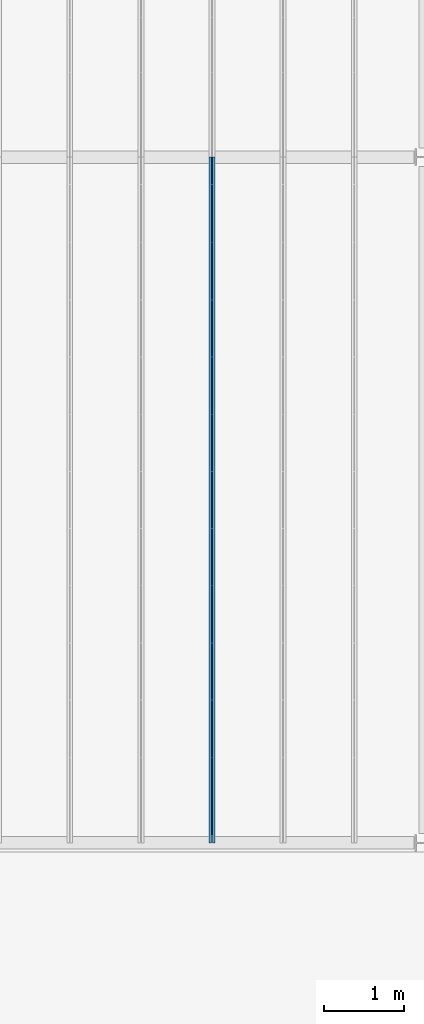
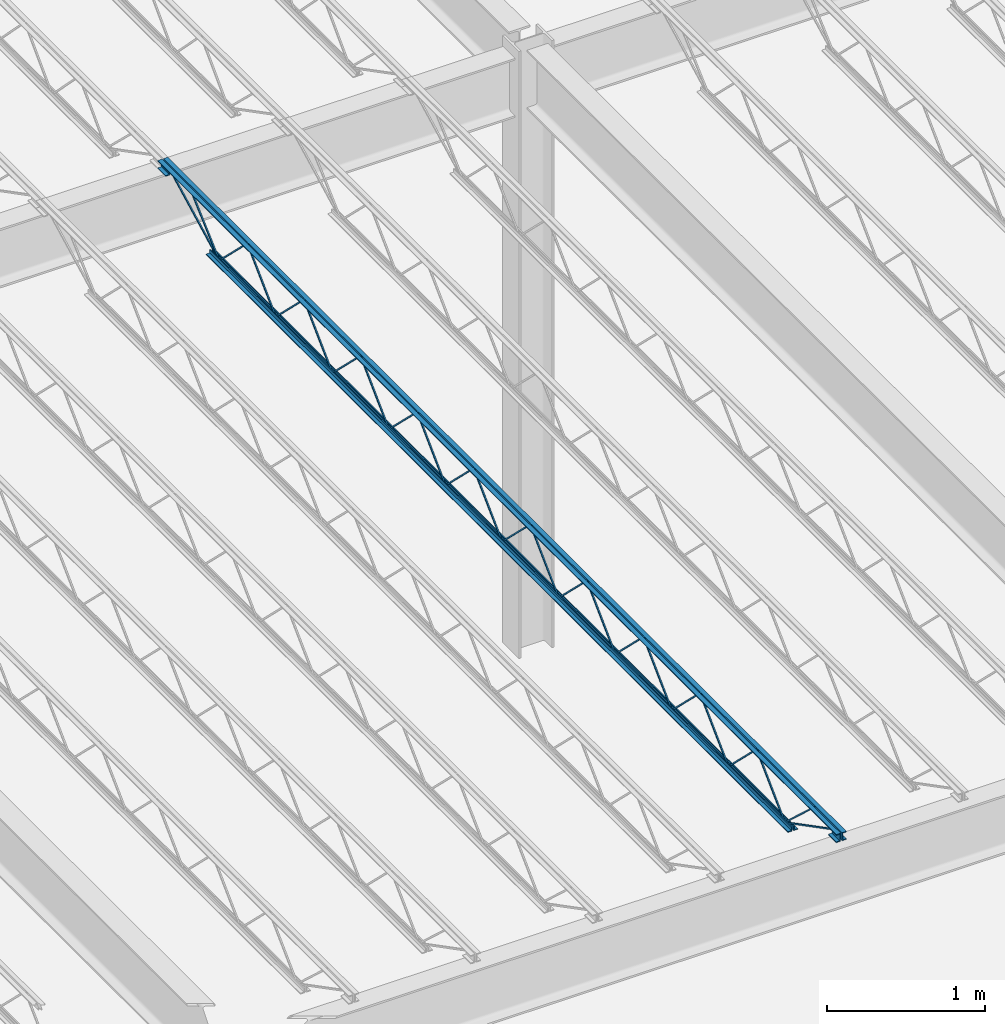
# One storey, part 37 of 119: 1 beam.
"""IFC2X3 building model written with IfcOpenShell, lengths in metres."""

import ifcopenshell
import ifcopenshell.guid

model = None  # the IFC model being written
_history = None  # IfcOwnerHistory: only IFC2X3 demands one
_inside = {}  # id of a spatial element -> (the spatial element, [elements in it])
_under = {}  # id of a project, library or spatial element -> (it, [spatial elements below it])
_declared = {}  # id of a project -> (the project, [libraries it declares])
_typed = {}  # id of a type object -> (the type object, [elements of that type])
_made_of = {}  # id of a material, layer set ... -> (it, [elements and type objects made of it])


def new_model(schema):
    """Start an empty IFC model of exactly this schema.

    Asked for "IFC4X3", IfcOpenShell would pick the latest addendum, in which some entities
    have other attributes; the version numbers below select the first issue.
    IFC2X3 requires an IfcOwnerHistory on every rooted entity: one is made here for all.
    """
    global model, _history
    if schema == "IFC4X3":
        model = ifcopenshell.file(schema_version=(4, 3, 0, 0))
    else:
        model = ifcopenshell.file(schema=schema)
    _inside.clear()
    _under.clear()
    _declared.clear()
    _typed.clear()
    _made_of.clear()
    _history = None
    if model.schema == "IFC2X3":
        org = make("IfcOrganization", Name="unknown")
        user = make(
            "IfcPersonAndOrganization",
            ThePerson=make("IfcPerson", FamilyName="unknown"),
            TheOrganization=org,
        )
        app = make(
            "IfcApplication",
            ApplicationDeveloper=org,
            Version="unknown",
            ApplicationFullName="unknown",
            ApplicationIdentifier="unknown",
        )
        _history = make(
            "IfcOwnerHistory",
            OwningUser=user,
            OwningApplication=app,
            ChangeAction="ADDED",
            CreationDate=0,
        )
    return model


def make(cls, **values):
    """One entity of the class cls with the attributes given. An attribute that is None is left unset."""
    return model.create_entity(
        cls, **{name: value for name, value in values.items() if value is not None}
    )


def entity(cls, *values):
    """Any entity or typed value of the class cls, its attributes in the order of the schema. None: left unset."""
    e = model.create_entity(cls)
    for i, value in enumerate(values):
        if value is not None:
            e[i] = value
    return e


def rooted(cls, **values):
    """An entity with a GlobalId (a new one), such as an element, a storey or a relation."""
    return make(cls, GlobalId=ifcopenshell.guid.new(), OwnerHistory=_history, **values)


def si_unit(unit_type, name, prefix=None):
    """IfcSIUnit, for example si_unit("LENGTHUNIT", "METRE", prefix="MILLI")."""
    return make("IfcSIUnit", UnitType=unit_type, Prefix=prefix, Name=name)


def converted_unit(unit_type, name, factor, base, dimensions=None, offset=None):
    """IfcConversionBasedUnit, such as the inch: factor (a typed value) times the base unit."""
    return make(
        "IfcConversionBasedUnit"
        if offset is None
        else "IfcConversionBasedUnitWithOffset",
        ConversionOffset=offset,
        Dimensions=None
        if dimensions is None
        else entity("IfcDimensionalExponents", *dimensions),
        UnitType=unit_type,
        Name=name,
        ConversionFactor=make(
            "IfcMeasureWithUnit", ValueComponent=factor, UnitComponent=base
        ),
    )


def assignment(units):
    """IfcUnitAssignment: the units of a project."""
    return None if units is None else make("IfcUnitAssignment", Units=units)


def point(xyz):
    """IfcCartesianPoint."""
    return None if xyz is None else make("IfcCartesianPoint", Coordinates=xyz)


def direction(xyz):
    """IfcDirection."""
    return None if xyz is None else make("IfcDirection", DirectionRatios=xyz)


def frame(location, z_axis=None, x_axis=None):
    """IfcAxis2Placement3D, a coordinate frame: its origin and axes. An axis left out is left unset."""
    return make(
        "IfcAxis2Placement3D",
        Location=point(location),
        Axis=direction(z_axis),
        RefDirection=direction(x_axis),
    )


def origin():
    """The frame at (0, 0, 0) with its axes left unset."""
    return frame((0.0, 0.0, 0.0))


def place(relative_to, where):
    """IfcLocalPlacement: puts the frame where relative to a parent placement (None: the world)."""
    return make(
        "IfcLocalPlacement", PlacementRelTo=relative_to, RelativePlacement=where
    )


def context(
    kind, dimensions, precision=None, world=None, true_north=None, identifier=None
):
    """IfcGeometricRepresentationContext, for example the 3D "Model" context."""
    return make(
        "IfcGeometricRepresentationContext",
        ContextIdentifier=identifier,
        ContextType=kind,
        CoordinateSpaceDimension=dimensions,
        Precision=precision,
        WorldCoordinateSystem=world,
        TrueNorth=true_north,
    )


def project(units=None, contexts=None):
    """IfcProject with its units and contexts."""
    return rooted(
        "IfcProject",
        Name="project",
        RepresentationContexts=contexts,
        UnitsInContext=assignment(units),
    )


def spatial(cls, under=None, at=None, **own):
    """A site, building, storey or space (cls), placed at a placement, below another one or the project."""
    s = rooted(cls, ObjectPlacement=at, **own)
    if under is not None:
        _under.setdefault(under.id(), (under, []))[1].append(s)
    return s


def faces_of(points, faces, orient=None, outer=None):
    """IfcFace entities. A face is a list of loops; a loop is a list of indices into points, from 0.

    orient and outer hold one flag for each loop. By default every Orientation is true, the
    first loop of a face is its IfcFaceOuterBound and the others are IfcFaceBound.
    """
    made = []
    for i, loops in enumerate(faces):
        bounds = []
        for j, loop in enumerate(loops):
            is_outer = j == 0 if outer is None else outer[i][j]
            bounds.append(
                make(
                    "IfcFaceOuterBound" if is_outer else "IfcFaceBound",
                    Bound=make("IfcPolyLoop", Polygon=[points[k] for k in loop]),
                    Orientation=True if orient is None else orient[i][j],
                )
            )
        made.append(make("IfcFace", Bounds=bounds))
    return made


def face_set(faces, orient=None, outer=None):
    """The faces of one IfcConnectedFaceSet. surface_model builds it on its shared points."""
    return ("IfcConnectedFaceSet", faces, orient, outer)


def surface_model(cls, points, shells):
    """IfcFaceBasedSurfaceModel or IfcShellBasedSurfaceModel (cls): surfaces that need not close."""
    shared = [point(p) for p in points]
    made = [make(c, CfsFaces=faces_of(shared, fs, o, b)) for c, fs, o, b in shells]
    if cls == "IfcFaceBasedSurfaceModel":
        return make(cls, FbsmFaces=made)
    return make(cls, SbsmBoundary=made)


def shape(context_of_items, identifier, shape_type, items):
    """IfcShapeRepresentation: the items that make up one representation, for example the "Body"."""
    return make(
        "IfcShapeRepresentation",
        ContextOfItems=context_of_items,
        RepresentationIdentifier=identifier,
        RepresentationType=shape_type,
        Items=items,
    )


def made_of(thing, what):
    """Note that an element or type object is made of a material, layer set ...; save() writes the relation."""
    if what is not None:
        _made_of.setdefault(what.id(), (what, []))[1].append(thing)
    return thing


def element(
    cls,
    number,
    at=None,
    inside=None,
    cuts=None,
    type_object=None,
    material=None,
    context=None,
    identifier="Body",
    shape_type=None,
    held_by="IfcProductDefinitionShape",
    body=None,
    shapes=None,
    **own,
):
    """One element of the class cls, such as IfcWall. Its Tag is "e" and its number.

    at: its placement. inside: the storey or other place that contains it. cuts: it is an
    opening in that element (IfcRelVoidsElement). A single representation is given by context,
    identifier, shape_type and body (its items); several are given by shapes. held_by: the class
    of the entity that holds the representations. save() writes the other relations.
    """
    e = rooted(cls, Tag="e%d" % number, ObjectPlacement=at, **own)
    if body is not None:
        shapes = [shape(context, identifier, shape_type, body)]
    if shapes is not None:
        e.Representation = make(held_by, Representations=shapes)
    if inside is not None:
        _inside.setdefault(inside.id(), (inside, []))[1].append(e)
    if cuts is not None:
        rooted(
            "IfcRelVoidsElement", RelatingBuildingElement=cuts, RelatedOpeningElement=e
        )
    if type_object is not None:
        _typed.setdefault(type_object.id(), (type_object, []))[1].append(e)
    return made_of(e, material)


def aggregate(whole, parts):
    """IfcRelAggregates: a whole, such as a stair, and the parts it consists of."""
    return rooted("IfcRelAggregates", RelatingObject=whole, RelatedObjects=parts)


def save(model, path):
    """Write the relations noted so far, then the file.

    IfcRelAggregates (storeys below a building ...), IfcRelContainedInSpatialStructure (elements
    in a storey), IfcRelDefinesByType, IfcRelAssociatesMaterial and IfcRelDeclares: one each for
    every whole, place, type object, material and project.
    """
    for whole, parts in _under.values():
        aggregate(whole, parts)
    for where, things in _inside.values():
        rooted(
            "IfcRelContainedInSpatialStructure",
            RelatedElements=things,
            RelatingStructure=where,
        )
    for kind, things in _typed.values():
        rooted("IfcRelDefinesByType", RelatedObjects=things, RelatingType=kind)
    for what, things in _made_of.values():
        rooted("IfcRelAssociatesMaterial", RelatedObjects=things, RelatingMaterial=what)
    for by, libraries in _declared.values():
        rooted("IfcRelDeclares", RelatingContext=by, RelatedDefinitions=libraries)
    model.write(path)


model = new_model("IFC2X3")

# Units and contexts
model_context = context("Model", 3, precision=1e-09, world=origin())
plan_context = context("Plan", 3, precision=1e-09, world=origin())
ifc_project = project(units=[si_unit("LENGTHUNIT", "METRE"), si_unit("AREAUNIT", "SQUARE_METRE"), si_unit("VOLUMEUNIT", "CUBIC_METRE"), converted_unit("PLANEANGLEUNIT", "DEGREE", entity("IfcRatioMeasure", 0.01745329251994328), si_unit("PLANEANGLEUNIT", "RADIAN"), dimensions=[0, 0, 0, 0, 0, 0, 0]), si_unit("TIMEUNIT", "SECOND")], contexts=[model_context, plan_context])

# Site, building, storey
site_placement = place(None, origin())
site = spatial("IfcSite", under=ifc_project, at=site_placement, Name="Default", CompositionType="ELEMENT")
building_placement = place(site_placement, origin())
building = spatial("IfcBuilding", under=site, at=building_placement, CompositionType="ELEMENT")
storey_placement = place(building_placement, frame((0.0, 0.0, 4.570000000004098)))
storey = spatial("IfcBuildingStorey", under=building, at=storey_placement, Name="Second Floor", CompositionType="ELEMENT", Elevation=4.570000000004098)

# Beam
beam_placement = place(storey_placement, frame((-29.14300000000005, 10.04000000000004, 4.323999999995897), z_axis=(0.0, 0.0, 1.0), x_axis=(-1.0, 0.0, 0.0)))
element("IfcBeam", 1, at=beam_placement, inside=storey, Name="M_K-Series Bar Joist-Rod Web:14K1:14K1", ObjectType="M_K-Series Bar Joist-Rod Web:14K1", context=model_context, shape_type="SurfaceModel", body=[
    surface_model("IfcFaceBasedSurfaceModel", [(-0.03200000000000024, -2.141200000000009, 0.01110000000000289), (-0.04149999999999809, -2.141200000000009, 0.01110000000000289), (-0.04149999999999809, -2.141200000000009, 0.001600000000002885), (-0.03200000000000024, -2.141200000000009, 0.001600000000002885), (-0.04149999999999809, -2.139961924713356, 0.01110000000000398), (-0.03200000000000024, -2.139961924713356, 0.01110000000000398), (-0.04149999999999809, -2.136088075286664, 0.001600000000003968), (-0.04149999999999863, -1.785138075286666, 0.3449000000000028), (-0.04149999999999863, -1.782661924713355, 0.3449000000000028), (-0.04149999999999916, -1.431711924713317, 0.001600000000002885), (-0.04149999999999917, -1.426600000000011, 0.001600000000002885), (-0.04149999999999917, -1.426600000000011, 0.01110000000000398), (-0.04149999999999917, -1.42783807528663, 0.01110000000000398), (-0.04149999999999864, -1.778788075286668, 0.3544000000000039), (-0.04149999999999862, -1.789011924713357, 0.3544000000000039), (-0.03199999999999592, -2.136088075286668, 0.001600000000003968), (-0.03200000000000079, -1.78513807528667, 0.3449000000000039), (-0.03200000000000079, -1.782661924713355, 0.3449000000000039), (-0.03200000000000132, -1.431711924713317, 0.001600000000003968), (-0.03200000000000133, -1.426600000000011, 0.001600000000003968), (-0.03200000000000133, -1.426600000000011, 0.01110000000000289), (-0.03200000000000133, -1.42783807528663, 0.01110000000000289), (-0.03200000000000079, -1.778788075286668, 0.3544000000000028), (-0.03200000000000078, -1.789011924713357, 0.3544000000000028), (-0.03199999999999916, -2.855800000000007, 0.01110000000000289), (-0.04149999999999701, -2.855800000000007, 0.01110000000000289), (-0.04149999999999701, -2.855800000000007, 0.001600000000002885), (-0.03199999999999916, -2.855800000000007, 0.001600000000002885), (-0.04149999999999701, -2.854561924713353, 0.01110000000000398), (-0.03199999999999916, -2.854561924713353, 0.01110000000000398), (-0.04149999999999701, -2.850688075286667, 0.001600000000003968), (-0.04149999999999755, -2.499738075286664, 0.3449000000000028), (-0.04149999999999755, -2.497261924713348, 0.3449000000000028), (-0.04149999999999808, -2.146311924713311, 0.001600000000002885), (-0.04149999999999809, -2.141200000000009, 0.01110000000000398), (-0.04149999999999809, -2.142438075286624, 0.01110000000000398), (-0.04149999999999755, -2.493388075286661, 0.3544000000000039), (-0.04149999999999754, -2.503611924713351, 0.3544000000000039), (-0.03199999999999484, -2.850688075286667, 0.001600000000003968), (-0.0319999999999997, -2.499738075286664, 0.3449000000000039), (-0.0319999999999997, -2.497261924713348, 0.3449000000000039), (-0.03200000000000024, -2.146311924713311, 0.001600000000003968), (-0.03200000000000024, -2.141200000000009, 0.001600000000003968), (-0.03200000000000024, -2.142438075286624, 0.01110000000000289), (-0.03199999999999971, -2.493388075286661, 0.3544000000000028), (-0.0319999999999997, -2.503611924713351, 0.3544000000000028), (-0.03200000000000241, -3.570400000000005, 0.01110000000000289), (-0.04150000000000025, -3.570400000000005, 0.01110000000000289), (-0.04150000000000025, -3.570400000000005, 0.001600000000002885), (-0.03200000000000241, -3.570400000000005, 0.001600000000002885), (-0.04150000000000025, -3.569161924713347, 0.01110000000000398), (-0.03200000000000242, -3.569161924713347, 0.01110000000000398), (-0.04150000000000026, -3.56528807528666, 0.001600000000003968), (-0.04150000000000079, -3.214338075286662, 0.3449000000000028), (-0.04150000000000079, -3.21186192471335, 0.3449000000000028), (-0.04150000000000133, -2.860911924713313, 0.001600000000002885), (-0.04149999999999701, -2.855800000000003, 0.001600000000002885), (-0.04150000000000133, -2.855800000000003, 0.01110000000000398), (-0.04150000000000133, -2.857038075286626, 0.01110000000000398), (-0.0415000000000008, -3.207988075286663, 0.3544000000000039), (-0.04150000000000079, -3.218211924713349, 0.3544000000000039), (-0.03199999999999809, -3.56528807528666, 0.001600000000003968), (-0.03200000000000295, -3.214338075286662, 0.3449000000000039), (-0.03200000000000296, -3.21186192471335, 0.3449000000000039), (-0.03200000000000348, -2.860911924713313, 0.001600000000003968), (-0.03200000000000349, -2.855800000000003, 0.001600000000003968), (-0.03199999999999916, -2.855800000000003, 0.01110000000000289), (-0.03200000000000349, -2.857038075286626, 0.01110000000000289), (-0.03200000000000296, -3.207988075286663, 0.3544000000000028), (-0.03200000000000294, -3.218211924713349, 0.3544000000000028), (-0.03200000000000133, -4.285000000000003, 0.01110000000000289), (-0.04149999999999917, -4.285000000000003, 0.01110000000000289), (-0.04149999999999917, -4.285000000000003, 0.001600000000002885), (-0.03200000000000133, -4.285000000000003, 0.001600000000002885), (-0.04149999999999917, -4.283761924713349, 0.01110000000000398), (-0.03200000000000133, -4.283761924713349, 0.01110000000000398), (-0.04149999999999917, -4.279888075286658, 0.001600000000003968), (-0.0414999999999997, -3.92893807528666, 0.3449000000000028), (-0.04149999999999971, -3.926461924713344, 0.3449000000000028), (-0.04150000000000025, -3.575511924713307, 0.001600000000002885), (-0.04150000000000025, -3.570400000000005, 0.01110000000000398), (-0.04150000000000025, -3.571638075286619, 0.01110000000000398), (-0.04149999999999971, -3.922588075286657, 0.3544000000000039), (-0.0414999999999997, -3.932811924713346, 0.3544000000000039), (-0.031999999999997, -4.279888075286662, 0.001600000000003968), (-0.03200000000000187, -3.92893807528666, 0.3449000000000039), (-0.03200000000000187, -3.926461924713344, 0.3449000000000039), (-0.0320000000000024, -3.575511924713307, 0.001600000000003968), (-0.03200000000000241, -3.570400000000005, 0.001600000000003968), (-0.03200000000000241, -3.571638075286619, 0.01110000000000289), (-0.03200000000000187, -3.922588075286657, 0.3544000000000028), (-0.03200000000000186, -3.932811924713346, 0.3544000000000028), (-0.03200000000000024, -4.9996, 0.01110000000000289), (-0.04149999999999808, -4.9996, 0.01110000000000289), (-0.04149999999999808, -4.9996, 0.001600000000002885), (-0.03200000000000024, -4.9996, 0.001600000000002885), (-0.04149999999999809, -4.998361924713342, 0.01110000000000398), (-0.03200000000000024, -4.998361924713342, 0.01110000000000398), (-0.04149999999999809, -4.994488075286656, 0.001600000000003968), (-0.04149999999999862, -4.643538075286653, 0.3449000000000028), (-0.04149999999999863, -4.641061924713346, 0.3449000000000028), (-0.04149999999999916, -4.290111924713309, 0.001600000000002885), (-0.04149999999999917, -4.284999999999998, 0.001600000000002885), (-0.04149999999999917, -4.284999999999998, 0.01110000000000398), (-0.04149999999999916, -4.286238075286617, 0.01110000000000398), (-0.04149999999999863, -4.637188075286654, 0.3544000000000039), (-0.04149999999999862, -4.64741192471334, 0.3544000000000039), (-0.03199999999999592, -4.994488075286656, 0.001600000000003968), (-0.03200000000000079, -4.643538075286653, 0.3449000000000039), (-0.03200000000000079, -4.641061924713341, 0.3449000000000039), (-0.03200000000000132, -4.290111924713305, 0.001600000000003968), (-0.03200000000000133, -4.284999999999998, 0.001600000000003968), (-0.03200000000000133, -4.284999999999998, 0.01110000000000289), (-0.03200000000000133, -4.286238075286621, 0.01110000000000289), (-0.03200000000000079, -4.637188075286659, 0.3544000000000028), (-0.03200000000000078, -4.64741192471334, 0.3544000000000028), (-0.03200000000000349, -5.714199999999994, 0.01110000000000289), (-0.04150000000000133, -5.714199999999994, 0.01110000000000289), (-0.04150000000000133, -5.714199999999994, 0.001600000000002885), (-0.03200000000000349, -5.714199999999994, 0.001600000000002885), (-0.04150000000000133, -5.712961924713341, 0.01110000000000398), (-0.03200000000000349, -5.712961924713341, 0.01110000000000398), (-0.04149999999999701, -5.709088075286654, 0.001600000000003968), (-0.04149999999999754, -5.358138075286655, 0.3449000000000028), (-0.04149999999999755, -5.355661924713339, 0.3449000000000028), (-0.04149999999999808, -5.004711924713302, 0.001600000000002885), (-0.04150000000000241, -4.999599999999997, 0.01110000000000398), (-0.04150000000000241, -5.000838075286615, 0.01110000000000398), (-0.04150000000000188, -5.351788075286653, 0.3544000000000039), (-0.04150000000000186, -5.362011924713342, 0.3544000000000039), (-0.03199999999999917, -5.709088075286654, 0.001600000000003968), (-0.03200000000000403, -5.358138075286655, 0.3449000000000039), (-0.03200000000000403, -5.355661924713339, 0.3449000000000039), (-0.03200000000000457, -5.004711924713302, 0.001600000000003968), (-0.03200000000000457, -4.999599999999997, 0.001600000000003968), (-0.03200000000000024, -5.000838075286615, 0.01110000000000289), (-0.03199999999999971, -5.351788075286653, 0.3544000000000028), (-0.0319999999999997, -5.362011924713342, 0.3544000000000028), (-0.03200000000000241, -6.428799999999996, 0.01110000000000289), (-0.04150000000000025, -6.428799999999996, 0.01110000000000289), (-0.04150000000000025, -6.428799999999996, 0.001600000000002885), (-0.03200000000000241, -6.428799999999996, 0.001600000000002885), (-0.04150000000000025, -6.427561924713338, 0.01110000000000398), (-0.03200000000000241, -6.427561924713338, 0.01110000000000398), (-0.04150000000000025, -6.423688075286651, 0.001600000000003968), (-0.04150000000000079, -6.072738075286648, 0.3449000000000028), (-0.04150000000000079, -6.070261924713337, 0.3449000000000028), (-0.04150000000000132, -5.719311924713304, 0.001600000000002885), (-0.04150000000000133, -5.714199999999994, 0.01110000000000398), (-0.04150000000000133, -5.715438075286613, 0.01110000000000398), (-0.04150000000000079, -6.06638807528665, 0.3544000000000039), (-0.04150000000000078, -6.076611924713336, 0.3544000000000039), (-0.03199999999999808, -6.423688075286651, 0.001600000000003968), (-0.03200000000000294, -6.072738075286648, 0.3449000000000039), (-0.03200000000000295, -6.070261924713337, 0.3449000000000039), (-0.03200000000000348, -5.7193119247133, 0.001600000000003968), (-0.03200000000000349, -5.714199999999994, 0.001600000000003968), (-0.03200000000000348, -5.715438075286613, 0.01110000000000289), (-0.03200000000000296, -6.06638807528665, 0.3544000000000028), (-0.03200000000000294, -6.076611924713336, 0.3544000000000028), (-0.03200000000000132, -7.14339999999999, 0.01110000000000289), (-0.04149999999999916, -7.14339999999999, 0.01110000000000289), (-0.04149999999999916, -7.14339999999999, 0.001600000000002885), (-0.03200000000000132, -7.14339999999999, 0.001600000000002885), (-0.04149999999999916, -7.142161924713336, 0.01110000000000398), (-0.03200000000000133, -7.142161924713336, 0.01110000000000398), (-0.04149999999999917, -7.138288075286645, 0.001600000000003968), (-0.0414999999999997, -6.787338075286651, 0.3449000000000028), (-0.0414999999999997, -6.784861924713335, 0.3449000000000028), (-0.04150000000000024, -6.433911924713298, 0.001600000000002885), (-0.04150000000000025, -6.428799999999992, 0.001600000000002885), (-0.04150000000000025, -6.428799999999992, 0.01110000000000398), (-0.04150000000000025, -6.43003807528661, 0.01110000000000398), (-0.04149999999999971, -6.780988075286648, 0.3544000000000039), (-0.0414999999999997, -6.791211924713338, 0.3544000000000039), (-0.031999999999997, -7.138288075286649, 0.001600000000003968), (-0.03200000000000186, -6.787338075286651, 0.3449000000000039), (-0.03200000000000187, -6.784861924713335, 0.3449000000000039), (-0.0320000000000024, -6.433911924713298, 0.001600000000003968), (-0.03200000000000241, -6.428799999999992, 0.001600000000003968), (-0.03200000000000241, -6.428799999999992, 0.01110000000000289), (-0.0320000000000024, -6.43003807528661, 0.01110000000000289), (-0.03200000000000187, -6.780988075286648, 0.3544000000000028), (-0.03200000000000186, -6.791211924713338, 0.3544000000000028), (-0.03200000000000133, -1.426600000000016, 0.01109999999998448), (-0.04149999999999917, -1.426600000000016, 0.01109999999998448), (-0.04149999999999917, -1.426600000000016, 0.001599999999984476), (-0.03200000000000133, -1.426600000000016, 0.001599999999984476), (-0.04149999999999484, -1.425361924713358, 0.01109999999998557), (-0.031999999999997, -1.425361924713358, 0.01109999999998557), (-0.04149999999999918, -1.421488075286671, 0.001599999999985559), (-0.04149999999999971, -1.070538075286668, 0.3448999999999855), (-0.04149999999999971, -1.068061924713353, 0.3448999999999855), (-0.04150000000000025, -0.7171119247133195, 0.001599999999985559), (-0.04150000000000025, -0.7120000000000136, 0.001599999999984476), (-0.04150000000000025, -0.7120000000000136, 0.01109999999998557), (-0.04150000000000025, -0.7132380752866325, 0.01109999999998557), (-0.04149999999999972, -1.06418807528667, 0.3543999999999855), (-0.0414999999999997, -1.074411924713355, 0.3543999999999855), (-0.031999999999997, -1.421488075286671, 0.001599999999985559), (-0.03199999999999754, -1.070538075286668, 0.3448999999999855), (-0.03199999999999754, -1.068061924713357, 0.3448999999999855), (-0.03199999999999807, -0.7171119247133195, 0.001599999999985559), (-0.03199999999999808, -0.7120000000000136, 0.001599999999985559), (-0.03200000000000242, -0.7120000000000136, 0.01109999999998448), (-0.03199999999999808, -0.7132380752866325, 0.01109999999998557), (-0.03199999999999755, -1.064188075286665, 0.3543999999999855), (-0.03199999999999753, -1.074411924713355, 0.3543999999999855), (-0.03200000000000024, -7.857999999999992, 0.01110000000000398), (-0.04149999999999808, -7.857999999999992, 0.01110000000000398), (-0.04149999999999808, -7.857999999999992, 0.001600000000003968), (-0.03200000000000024, -7.857999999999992, 0.001600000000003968), (-0.04149999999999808, -7.856761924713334, 0.01110000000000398), (-0.03200000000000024, -7.856761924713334, 0.01110000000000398), (-0.04149999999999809, -7.852888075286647, 0.001600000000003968), (-0.04149999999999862, -7.501938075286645, 0.3449000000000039), (-0.04149999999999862, -7.499461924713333, 0.3449000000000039), (-0.04149999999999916, -7.148511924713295, 0.001600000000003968), (-0.04149999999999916, -7.14339999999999, 0.001600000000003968), (-0.04149999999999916, -7.14339999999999, 0.01110000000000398), (-0.04149999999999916, -7.144638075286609, 0.01110000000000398), (-0.04149999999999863, -7.495588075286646, 0.3544000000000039), (-0.04149999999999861, -7.505811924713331, 0.3544000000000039), (-0.03199999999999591, -7.852888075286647, 0.001600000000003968), (-0.03200000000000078, -7.501938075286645, 0.3449000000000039), (-0.03200000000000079, -7.499461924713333, 0.3449000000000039), (-0.03200000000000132, -7.148511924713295, 0.001600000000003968), (-0.03200000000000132, -7.14339999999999, 0.001600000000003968), (-0.03200000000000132, -7.14339999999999, 0.01110000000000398), (-0.03200000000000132, -7.144638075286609, 0.01110000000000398), (-0.03200000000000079, -7.495588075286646, 0.3544000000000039), (-0.03200000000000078, -7.505811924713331, 0.3544000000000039), (-0.04150000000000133, 0.0, 0.3559999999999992), (-0.07350000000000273, 0.0, 0.3559999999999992), (-0.07350000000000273, 0.0, 0.3494999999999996), (-0.04799999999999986, 0.0, 0.3494999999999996), (-0.04799999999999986, 0.0, 0.3239999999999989), (-0.04150000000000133, 0.0, 0.3239999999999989), (-0.03200000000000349, 0.0, 0.3559999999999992), (-0.03200000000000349, 0.0, 0.3239999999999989), (-0.02550000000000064, 0.0, 0.3239999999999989), (-0.02550000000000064, 0.0, 0.3494999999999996), (0.0, 0.0, 0.3494999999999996), (0.0, 0.0, 0.3559999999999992), (-0.04149999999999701, -8.569999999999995, 0.3559999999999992), (-0.07349999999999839, -8.569999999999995, 0.3559999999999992), (-0.07349999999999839, -8.569999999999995, 0.3494999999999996), (-0.04799999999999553, -8.569999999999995, 0.3494999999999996), (-0.04799999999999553, -8.569999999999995, 0.3239999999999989), (-0.04149999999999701, -8.569999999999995, 0.3239999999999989), (-0.03199999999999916, -8.569999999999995, 0.3559999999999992), (-0.03199999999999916, -8.569999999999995, 0.3239999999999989), (-0.02549999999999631, -8.569999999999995, 0.3239999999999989), (-0.02549999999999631, -8.569999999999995, 0.3494999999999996), (0.0, -8.569999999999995, 0.3494999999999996), (0.0, -8.569999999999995, 0.3559999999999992), (-0.03199999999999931, -8.470000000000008, 0.2924999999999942), (0.0, -8.470000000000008, 0.2924999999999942), (0.0, -8.470000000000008, 0.2989999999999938), (-0.02550000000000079, -8.470000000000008, 0.2989999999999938), (-0.02550000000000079, -8.470000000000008, 0.3239999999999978), (-0.03199999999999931, -8.470000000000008, 0.3239999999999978), (-0.07349999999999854, -8.470000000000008, 0.2924999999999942), (-0.04149999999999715, -8.470000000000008, 0.2924999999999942), (-0.04149999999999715, -8.470000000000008, 0.3239999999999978), (-0.048, -8.470000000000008, 0.3239999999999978), (-0.048, -8.470000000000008, 0.2989999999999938), (-0.07349999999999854, -8.470000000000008, 0.2989999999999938), (-0.03199999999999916, -8.569999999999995, 0.2924999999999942), (0.0, -8.569999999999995, 0.2924999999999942), (0.0, -8.569999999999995, 0.2989999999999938), (-0.02550000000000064, -8.569999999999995, 0.2989999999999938), (-0.02550000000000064, -8.569999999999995, 0.3239999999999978), (-0.03199999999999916, -8.569999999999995, 0.3239999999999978), (-0.07349999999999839, -8.569999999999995, 0.2924999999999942), (-0.04149999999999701, -8.569999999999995, 0.2924999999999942), (-0.04149999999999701, -8.569999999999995, 0.3239999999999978), (-0.04799999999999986, -8.569999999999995, 0.3239999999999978), (-0.04799999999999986, -8.569999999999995, 0.2989999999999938), (-0.07349999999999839, -8.569999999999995, 0.2989999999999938), (-0.04150000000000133, 0.0, 0.2924999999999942), (-0.04150000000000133, 0.0, 0.3239999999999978), (-0.04800000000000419, 0.0, 0.3239999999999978), (-0.04800000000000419, 0.0, 0.2989999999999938), (-0.07350000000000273, 0.0, 0.2989999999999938), (-0.07350000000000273, 0.0, 0.2924999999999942), (-0.03200000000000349, 0.0, 0.2924999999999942), (0.0, 0.0, 0.2924999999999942), (0.0, 0.0, 0.2989999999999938), (-0.02550000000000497, 0.0, 0.2989999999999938), (-0.02550000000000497, 0.0, 0.3239999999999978), (-0.03200000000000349, 0.0, 0.3239999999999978), (-0.04150000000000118, -0.0999999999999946, 0.2924999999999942), (-0.04150000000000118, -0.0999999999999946, 0.3239999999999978), (-0.04800000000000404, -0.0999999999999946, 0.3239999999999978), (-0.04800000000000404, -0.0999999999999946, 0.2989999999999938), (-0.07350000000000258, -0.0999999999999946, 0.2989999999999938), (-0.07350000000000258, -0.0999999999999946, 0.2924999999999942), (-0.03200000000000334, -0.0999999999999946, 0.2924999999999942), (0.0, -0.0999999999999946, 0.2924999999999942), (0.0, -0.0999999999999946, 0.2989999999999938), (-0.02550000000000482, -0.0999999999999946, 0.2989999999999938), (-0.02550000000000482, -0.0999999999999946, 0.3239999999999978), (-0.03200000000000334, -0.0999999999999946, 0.3239999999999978), (-0.04150000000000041, -0.6119999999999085, 0.0), (-0.04150000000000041, -0.6119999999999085, 0.03199999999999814), (-0.04799999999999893, -0.6119999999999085, 0.03199999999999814), (-0.04799999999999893, -0.6119999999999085, 0.006499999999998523), (-0.0735000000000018, -0.6119999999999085, 0.006499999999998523), (-0.0735000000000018, -0.6119999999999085, 0.0), (-0.03200000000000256, -0.6119999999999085, 0.0), (0.0, -0.6119999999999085, 0.0), (0.0, -0.6119999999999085, 0.006499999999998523), (-0.02549999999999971, -0.6119999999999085, 0.006499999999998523), (-0.02549999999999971, -0.6119999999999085, 0.03199999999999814), (-0.03200000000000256, -0.6119999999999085, 0.03199999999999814), (-0.04149999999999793, -7.957999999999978, 0.0), (-0.04149999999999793, -7.957999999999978, 0.03199999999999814), (-0.04799999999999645, -7.957999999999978, 0.03199999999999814), (-0.04799999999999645, -7.957999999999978, 0.006499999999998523), (-0.07349999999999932, -7.957999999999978, 0.006499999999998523), (-0.07349999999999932, -7.957999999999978, 0.0), (-0.03200000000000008, -7.957999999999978, 0.0), (0.0, -7.957999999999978, 0.0), (0.0, -7.957999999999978, 0.006499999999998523), (-0.02549999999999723, -7.957999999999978, 0.006499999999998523), (-0.02549999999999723, -7.957999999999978, 0.03199999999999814), (-0.03200000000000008, -7.957999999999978, 0.03199999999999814), (-0.03200000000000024, -7.855811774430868, 0.01056594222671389), (-0.04149999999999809, -7.855811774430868, 0.01056594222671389), (-0.04149999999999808, -7.860188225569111, 0.002134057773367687), (-0.03200000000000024, -7.860188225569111, 0.00213405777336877), (-0.03199999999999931, -8.468840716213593, 0.3287499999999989), (-0.03199999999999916, -8.569999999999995, 0.3287499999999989), (-0.03199999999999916, -8.569999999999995, 0.3192499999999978), (-0.03199999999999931, -8.471159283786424, 0.3192499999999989), (-0.04150000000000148, -8.471159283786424, 0.3192499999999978), (-0.04149999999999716, -8.468840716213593, 0.3287499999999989), (-0.04149999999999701, -8.569999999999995, 0.3287499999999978), (-0.04149999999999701, -8.569999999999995, 0.3192499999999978), (-0.03199999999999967, -8.235257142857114, 0.3417000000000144), (-0.04149999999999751, -8.235257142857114, 0.3417000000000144), (-0.04149999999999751, -8.235257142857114, 0.3322000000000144), (-0.03199999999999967, -8.235257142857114, 0.3322000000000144), (-0.04149999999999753, -8.220724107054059, 0.3417000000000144), (-0.03199999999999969, -8.220724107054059, 0.3417000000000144), (-0.04149999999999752, -8.224390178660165, 0.3322000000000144), (-0.04149999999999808, -7.861190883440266, 0.002831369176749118), (-0.04149999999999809, -7.854809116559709, 0.009868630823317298), (-0.03199999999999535, -8.224390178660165, 0.3322000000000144), (-0.03200000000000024, -7.861190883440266, 0.002831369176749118), (-0.03200000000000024, -7.854809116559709, 0.009868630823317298), (-0.03200000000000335, -0.09781177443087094, 0.3197840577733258), (-0.03200000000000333, -0.1021882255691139, 0.328215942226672), (-0.04150000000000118, -0.1021882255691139, 0.328215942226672), (-0.04150000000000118, -0.09781177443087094, 0.3197840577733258), (-0.03200000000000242, -0.7098117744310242, 0.002134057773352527), (-0.03200000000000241, -0.7141882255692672, 0.01056594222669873), (-0.04150000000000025, -0.7141882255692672, 0.01056594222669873), (-0.04150000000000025, -0.7098117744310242, 0.002134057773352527), (-0.03200000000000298, -0.3369634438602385, 0.3461600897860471), (-0.03200000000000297, -0.3434079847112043, 0.3531399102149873), (-0.04150000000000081, -0.3434079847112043, 0.3531399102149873), (-0.04150000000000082, -0.3369634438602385, 0.3461600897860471), (-0.03200000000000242, -0.708777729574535, 0.00286008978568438), (-0.03200000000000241, -0.7152222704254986, 0.009839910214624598), (-0.04150000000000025, -0.7152222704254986, 0.009839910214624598), (-0.04150000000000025, -0.708777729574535, 0.00286008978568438)], [face_set([[[0, 1, 2, 3]], [[1, 4, 5, 0]], [[2, 6, 7, 8, 9, 10, 11, 12, 13, 14, 4, 1]], [[3, 2, 6, 15]], [[0, 3, 15, 16, 17, 18, 19, 20, 21, 22, 23, 5]], [[4, 5, 23, 14]], [[15, 16, 7, 6]], [[14, 13, 22, 23]], [[16, 7, 8, 17]], [[13, 12, 21, 22]], [[17, 8, 9, 18]], [[20, 11, 10, 19]], [[12, 11, 20, 21]], [[18, 9, 10, 19]]]), face_set([[[24, 25, 26, 27]], [[25, 28, 29, 24]], [[26, 30, 31, 32, 33, 2, 34, 35, 36, 37, 28, 25]], [[27, 26, 30, 38]], [[24, 27, 38, 39, 40, 41, 42, 0, 43, 44, 45, 29]], [[28, 29, 45, 37]], [[38, 39, 31, 30]], [[37, 36, 44, 45]], [[39, 31, 32, 40]], [[36, 35, 43, 44]], [[40, 32, 33, 41]], [[0, 34, 2, 42]], [[35, 34, 0, 43]], [[41, 33, 2, 42]]]), face_set([[[46, 47, 48, 49]], [[47, 50, 51, 46]], [[48, 52, 53, 54, 55, 56, 57, 58, 59, 60, 50, 47]], [[49, 48, 52, 61]], [[46, 49, 61, 62, 63, 64, 65, 66, 67, 68, 69, 51]], [[50, 51, 69, 60]], [[61, 62, 53, 52]], [[60, 59, 68, 69]], [[62, 53, 54, 63]], [[59, 58, 67, 68]], [[63, 54, 55, 64]], [[66, 57, 56, 65]], [[58, 57, 66, 67]], [[64, 55, 56, 65]]]), face_set([[[70, 71, 72, 73]], [[71, 74, 75, 70]], [[72, 76, 77, 78, 79, 48, 80, 81, 82, 83, 74, 71]], [[73, 72, 76, 84]], [[70, 73, 84, 85, 86, 87, 88, 46, 89, 90, 91, 75]], [[74, 75, 91, 83]], [[84, 85, 77, 76]], [[83, 82, 90, 91]], [[85, 77, 78, 86]], [[82, 81, 89, 90]], [[86, 78, 79, 87]], [[46, 80, 48, 88]], [[81, 80, 46, 89]], [[87, 79, 48, 88]]]), face_set([[[92, 93, 94, 95]], [[93, 96, 97, 92]], [[94, 98, 99, 100, 101, 102, 103, 104, 105, 106, 96, 93]], [[95, 94, 98, 107]], [[92, 95, 107, 108, 109, 110, 111, 112, 113, 114, 115, 97]], [[96, 97, 115, 106]], [[107, 108, 99, 98]], [[106, 105, 114, 115]], [[108, 99, 100, 109]], [[105, 104, 113, 114]], [[109, 100, 101, 110]], [[112, 103, 102, 111]], [[104, 103, 112, 113]], [[110, 101, 102, 111]]]), face_set([[[116, 117, 118, 119]], [[117, 120, 121, 116]], [[118, 122, 123, 124, 125, 94, 126, 127, 128, 129, 120, 117]], [[119, 118, 122, 130]], [[116, 119, 130, 131, 132, 133, 134, 92, 135, 136, 137, 121]], [[120, 121, 137, 129]], [[130, 131, 123, 122]], [[129, 128, 136, 137]], [[131, 123, 124, 132]], [[128, 127, 135, 136]], [[132, 124, 125, 133]], [[92, 126, 94, 134]], [[127, 126, 92, 135]], [[133, 125, 94, 134]]]), face_set([[[138, 139, 140, 141]], [[139, 142, 143, 138]], [[140, 144, 145, 146, 147, 118, 148, 149, 150, 151, 142, 139]], [[141, 140, 144, 152]], [[138, 141, 152, 153, 154, 155, 156, 116, 157, 158, 159, 143]], [[142, 143, 159, 151]], [[152, 153, 145, 144]], [[151, 150, 158, 159]], [[153, 145, 146, 154]], [[150, 149, 157, 158]], [[154, 146, 147, 155]], [[116, 148, 118, 156]], [[149, 148, 116, 157]], [[155, 147, 118, 156]]]), face_set([[[160, 161, 162, 163]], [[161, 164, 165, 160]], [[162, 166, 167, 168, 169, 170, 171, 172, 173, 174, 164, 161]], [[163, 162, 166, 175]], [[160, 163, 175, 176, 177, 178, 179, 180, 181, 182, 183, 165]], [[164, 165, 183, 174]], [[175, 176, 167, 166]], [[174, 173, 182, 183]], [[176, 167, 168, 177]], [[173, 172, 181, 182]], [[177, 168, 169, 178]], [[180, 171, 170, 179]], [[172, 171, 180, 181]], [[178, 169, 170, 179]]]), face_set([[[184, 185, 186, 187]], [[185, 188, 189, 184]], [[186, 190, 191, 192, 193, 194, 195, 196, 197, 198, 188, 185]], [[187, 186, 190, 199]], [[184, 187, 199, 200, 201, 202, 203, 204, 205, 206, 207, 189]], [[188, 189, 207, 198]], [[199, 200, 191, 190]], [[198, 197, 206, 207]], [[200, 191, 192, 201]], [[197, 196, 205, 206]], [[201, 192, 193, 202]], [[204, 195, 194, 203]], [[196, 195, 204, 205]], [[202, 193, 194, 203]]]), face_set([[[208, 209, 210, 211]], [[209, 212, 213, 208]], [[210, 214, 215, 216, 217, 218, 219, 220, 221, 222, 212, 209]], [[211, 210, 214, 223]], [[208, 211, 223, 224, 225, 226, 227, 228, 229, 230, 231, 213]], [[212, 213, 231, 222]], [[223, 224, 215, 214]], [[222, 221, 230, 231]], [[224, 215, 216, 225]], [[221, 220, 229, 230]], [[225, 216, 217, 226]], [[228, 219, 218, 227]], [[220, 219, 228, 229]], [[226, 217, 218, 227]]]), face_set([[[232, 233, 234, 235, 236, 237]], [[238, 239, 240, 241, 242, 243]], [[244, 245, 246, 247, 248, 249]], [[250, 251, 252, 253, 254, 255]], [[237, 232, 244, 249]], [[236, 237, 249, 248]], [[235, 247, 248, 236]], [[234, 235, 247, 246]], [[233, 245, 246, 234]], [[232, 244, 245, 233]], [[243, 255, 250, 238]], [[242, 243, 255, 254]], [[241, 242, 254, 253]], [[240, 241, 253, 252]], [[239, 240, 252, 251]], [[238, 250, 251, 239]]]), face_set([[[256, 257, 258, 259, 260, 261]], [[262, 263, 264, 265, 266, 267]], [[268, 269, 270, 271, 272, 273]], [[274, 275, 276, 277, 278, 279]], [[261, 273, 268, 256]], [[260, 272, 273, 261]], [[259, 260, 272, 271]], [[258, 270, 271, 259]], [[257, 258, 270, 269]], [[256, 257, 269, 268]], [[267, 279, 274, 262]], [[266, 278, 279, 267]], [[265, 277, 278, 266]], [[264, 276, 277, 265]], [[263, 264, 276, 275]], [[262, 263, 275, 274]]]), face_set([[[280, 281, 282, 283, 284, 285]], [[286, 287, 288, 289, 290, 291]], [[292, 293, 294, 295, 296, 297]], [[298, 299, 300, 301, 302, 303]], [[285, 280, 292, 297]], [[284, 296, 297, 285]], [[283, 295, 296, 284]], [[282, 294, 295, 283]], [[281, 293, 294, 282]], [[280, 281, 293, 292]], [[291, 303, 298, 286]], [[290, 302, 303, 291]], [[289, 290, 302, 301]], [[288, 300, 301, 289]], [[287, 288, 300, 299]], [[286, 287, 299, 298]]]), face_set([[[304, 305, 306, 307, 308, 309]], [[310, 311, 312, 313, 314, 315]], [[316, 317, 318, 319, 320, 321]], [[322, 323, 324, 325, 326, 327]], [[309, 304, 316, 321]], [[308, 320, 321, 309]], [[307, 319, 320, 308]], [[306, 318, 319, 307]], [[305, 317, 318, 306]], [[304, 305, 317, 316]], [[315, 327, 322, 310]], [[314, 326, 327, 315]], [[313, 314, 326, 325]], [[312, 324, 325, 313]], [[311, 312, 324, 323]], [[310, 311, 323, 322]]]), face_set([[[328, 329, 330, 331]], [[331, 328, 332, 333, 334, 335]], [[330, 331, 335, 336]], [[329, 337, 338, 339, 336, 330]], [[328, 332, 337, 329]], [[333, 338, 339, 334]], [[336, 335, 334, 339]], [[332, 333, 338, 337]]]), face_set([[[340, 341, 342, 343]], [[341, 344, 345, 340]], [[342, 346, 347, 348, 344, 341]], [[343, 342, 346, 349]], [[340, 343, 349, 350, 351, 345]], [[351, 348, 347, 350]], [[344, 348, 351, 345]], [[349, 346, 347, 350]]]), face_set([[[352, 353, 354, 355]], [[356, 357, 358, 359]], [[355, 352, 356, 359]], [[354, 358, 359, 355]], [[353, 357, 358, 354]], [[352, 353, 357, 356]]]), face_set([[[360, 361, 362, 363]], [[364, 365, 366, 367]], [[363, 367, 364, 360]], [[362, 366, 367, 363]], [[361, 362, 366, 365]], [[360, 361, 365, 364]]])]),
])

save(model, "model.ifc")
